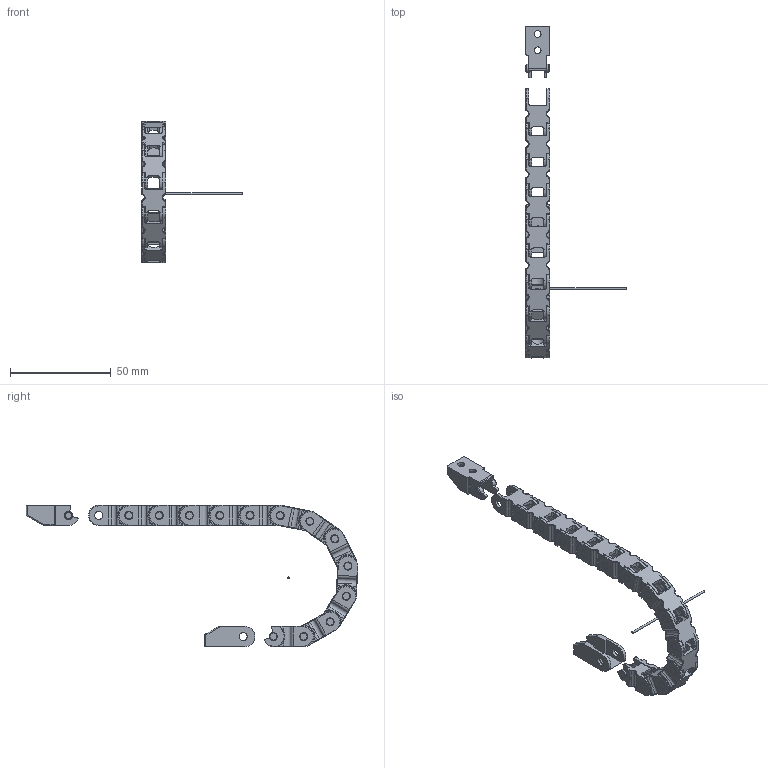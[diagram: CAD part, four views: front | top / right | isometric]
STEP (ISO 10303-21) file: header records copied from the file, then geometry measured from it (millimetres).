
FILE_DESCRIPTION((''),'2;1');
FILE_NAME('C:\Uebbing\PARAMETERKETTEN\KOLIBRI\Kol_10_012_4\KOLIBRI 10_012_4_R30.stp','2012-03-02T11:52:18',('Uebbing'),(''),'Autodesk Inventor 10','Autodesk Inventor 10','');
FILE_SCHEMA(('AUTOMOTIVE_DESIGN { 1 0 10303 214 1 1 1 1 }'));
Length unit declared in the file: millimetre
Products named in the file (5): KOLIBRI 10_012_4; Achse; Kol_10_012_4 Lasche; Kol_10_012_4_Anschluss_Bohrung 1576; Kol_10_012_4_Anschluss_Zapfen 1814
Assembly tree (16 placements, depth 2):
  KOLIBRI 10_012_4
    Achse
    Kol_10_012_4 Lasche  x13
    Kol_10_012_4_Anschluss_Bohrung 1576
    Kol_10_012_4_Anschluss_Zapfen 1814
Bounding box: 50 x 164.5 x 70 mm (x, y, z)
Volume: 13900.7 mm3; surface area: 20068.2 mm2
Topology: 16 solids, 16 shells, 1692 faces, 4347 edges, 2583 vertices
Faces by surface type: cylinder 678, plane 492, torus 260, bspline 208, cone 54
Full cylindrical faces by diameter (mm): 1 x1, 3.35 x4, 4 x56
Entity records: 7254 total; most frequent: CARTESIAN_POINT 2413, DIRECTION 1040, ORIENTED_EDGE 932, EDGE_CURVE 466, AXIS2_PLACEMENT_3D 405, VERTEX_POINT 299, VECTOR 230, LINE 230
